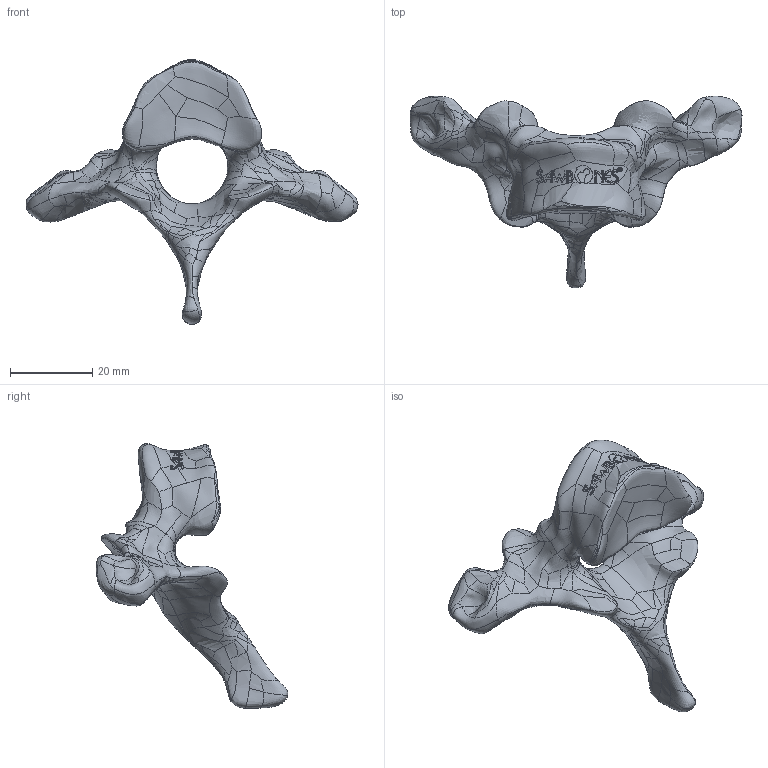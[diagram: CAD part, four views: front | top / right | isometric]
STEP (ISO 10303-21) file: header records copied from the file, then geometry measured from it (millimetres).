
FILE_DESCRIPTION (( 'STEP AP203' ), '1' );
FILE_NAME ('1379-60-2.STEP', '2026-07-28T19:17:35', ( '' ), ( '' ), 'SwSTEP 2.0', 'SolidWorks 2024', '' );
FILE_SCHEMA (( 'CONFIG_CONTROL_DESIGN' ));
Products named in the file (1): 1379-60-2
Bounding box: 80.66 x 46.57 x 64.33 mm (x, y, z)
Volume: 19940.4 mm3; surface area: 7674.5 mm2
Topology: 1 solids, 1 shells, 628 faces, 1633 edges, 1012 vertices
Faces by surface type: bspline 627, plane 1
Entity records: 1073444 total; most frequent: CARTESIAN_POINT 1063291, ORIENTED_EDGE 3262, EDGE_CURVE 1631, B_SPLINE_CURVE_WITH_KNOTS 1631, VERTEX_POINT 1012, EDGE_LOOP 637, ADVANCED_FACE 628, FACE_OUTER_BOUND 628
